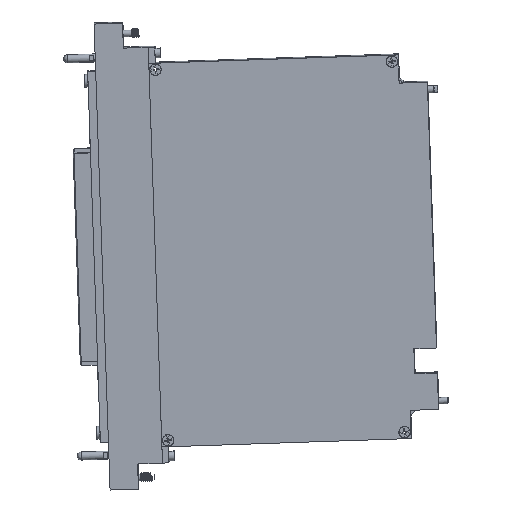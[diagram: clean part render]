
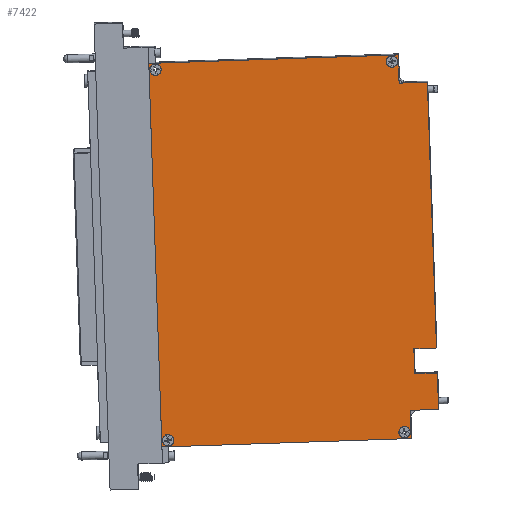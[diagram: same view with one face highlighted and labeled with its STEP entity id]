
A CAD part, front view. The second image highlights one B-rep face of the part: STEP entity #7422.
In plain terms, the highlighted planar face has unit normal (-0.008, -1, -0.021).
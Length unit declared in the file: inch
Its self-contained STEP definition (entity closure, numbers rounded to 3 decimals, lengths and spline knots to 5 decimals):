
#7048=CARTESIAN_POINT('',(0.79592,-0.4625,2.88527));
#7049=VERTEX_POINT('',#7048);
#7050=CARTESIAN_POINT('',(0.88586,-0.46332,2.88834));
#7051=DIRECTION('',(0.008,1.,0.021));
#7052=DIRECTION('',(-0.999,0.009,-0.034));
#7053=AXIS2_PLACEMENT_3D('',#7050,#7051,#7052);
#7054=CIRCLE('',#7053,0.09);
#7055=EDGE_CURVE('',#7049,#7049,#7054,.T.);
#7076=CARTESIAN_POINT('',(4.65075,-0.37448,-2.72538));
#7077=VERTEX_POINT('',#7076);
#7078=CARTESIAN_POINT('',(4.74069,-0.3753,-2.72232));
#7079=DIRECTION('',(0.008,1.,0.021));
#7080=DIRECTION('',(-0.999,0.009,-0.034));
#7081=AXIS2_PLACEMENT_3D('',#7078,#7079,#7080);
#7082=CIRCLE('',#7081,0.09);
#7083=EDGE_CURVE('',#7077,#7077,#7082,.T.);
#7105=CARTESIAN_POINT('',(4.89725,-0.39603,-1.81666));
#7106=VERTEX_POINT('',#7105);
#7113=CARTESIAN_POINT('',(5.24703,-0.39921,-1.80474));
#7114=VERTEX_POINT('',#7113);
#7115=CARTESIAN_POINT('',(5.24703,-0.39921,-1.80474));
#7116=DIRECTION('',(-0.999,0.009,-0.034));
#7117=VECTOR('',#7116,0.35);
#7118=LINE('',#7115,#7117);
#7119=EDGE_CURVE('',#7114,#7106,#7118,.T.);
#7136=CARTESIAN_POINT('',(5.26633,-0.3873,-2.36774));
#7137=VERTEX_POINT('',#7136);
#7138=CARTESIAN_POINT('',(5.26633,-0.3873,-2.36774));
#7139=DIRECTION('',(-0.034,-0.021,0.999));
#7140=VECTOR('',#7139,0.56346);
#7141=LINE('',#7138,#7140);
#7142=EDGE_CURVE('',#7137,#7114,#7141,.T.);
#7161=CARTESIAN_POINT('',(4.8291,-0.38332,-2.38265));
#7162=VERTEX_POINT('',#7161);
#7163=CARTESIAN_POINT('',(4.8291,-0.38332,-2.38265));
#7164=DIRECTION('',(0.999,-0.009,0.034));
#7165=VECTOR('',#7164,0.4375);
#7166=LINE('',#7163,#7165);
#7167=EDGE_CURVE('',#7162,#7137,#7166,.T.);
#7185=CARTESIAN_POINT('',(4.84405,-0.3741,-2.81883));
#7186=VERTEX_POINT('',#7185);
#7187=CARTESIAN_POINT('',(4.84405,-0.3741,-2.81883));
#7188=DIRECTION('',(-0.034,-0.021,0.999));
#7189=VECTOR('',#7188,0.43654);
#7190=LINE('',#7187,#7189);
#7191=EDGE_CURVE('',#7186,#7162,#7190,.T.);
#7209=CARTESIAN_POINT('',(0.98595,-0.339,-2.95034));
#7210=VERTEX_POINT('',#7209);
#7211=CARTESIAN_POINT('',(0.98595,-0.339,-2.95034));
#7212=DIRECTION('',(0.999,-0.009,0.034));
#7213=VECTOR('',#7212,3.8605);
#7214=LINE('',#7211,#7213);
#7215=EDGE_CURVE('',#7210,#7186,#7214,.T.);
#7232=CARTESIAN_POINT('',(0.7825,-0.46453,2.98485));
#7233=VERTEX_POINT('',#7232);
#7240=CARTESIAN_POINT('',(4.6406,-0.49963,3.11636));
#7241=VERTEX_POINT('',#7240);
#7242=CARTESIAN_POINT('',(4.6406,-0.49963,3.11636));
#7243=DIRECTION('',(-0.999,0.009,-0.034));
#7244=VECTOR('',#7243,3.8605);
#7245=LINE('',#7242,#7244);
#7246=EDGE_CURVE('',#7241,#7233,#7245,.T.);
#7264=CARTESIAN_POINT('',(4.65555,-0.4904,2.68018));
#7265=VERTEX_POINT('',#7264);
#7266=CARTESIAN_POINT('',(4.65555,-0.4904,2.68018));
#7267=DIRECTION('',(-0.034,-0.021,0.999));
#7268=VECTOR('',#7267,0.43654);
#7269=LINE('',#7266,#7268);
#7270=EDGE_CURVE('',#7265,#7241,#7269,.T.);
#7288=CARTESIAN_POINT('',(5.09278,-0.49438,2.69508));
#7289=VERTEX_POINT('',#7288);
#7290=CARTESIAN_POINT('',(5.09278,-0.49438,2.69508));
#7291=DIRECTION('',(-0.999,0.009,-0.034));
#7292=VECTOR('',#7291,0.4375);
#7293=LINE('',#7290,#7292);
#7294=EDGE_CURVE('',#7289,#7265,#7293,.T.);
#7310=CARTESIAN_POINT('',(5.23377,-0.40739,-1.41805));
#7311=VERTEX_POINT('',#7310);
#7320=CARTESIAN_POINT('',(5.23377,-0.40739,-1.41805));
#7321=DIRECTION('',(-0.034,-0.021,0.999));
#7322=VECTOR('',#7321,4.11646);
#7323=LINE('',#7320,#7322);
#7324=EDGE_CURVE('',#7311,#7289,#7323,.T.);
#7336=CARTESIAN_POINT('',(4.88399,-0.40421,-1.42997));
#7337=VERTEX_POINT('',#7336);
#7338=CARTESIAN_POINT('',(4.88399,-0.40421,-1.42997));
#7339=DIRECTION('',(0.999,-0.009,0.034));
#7340=VECTOR('',#7339,0.35);
#7341=LINE('',#7338,#7340);
#7342=EDGE_CURVE('',#7337,#7311,#7341,.T.);
#7360=CARTESIAN_POINT('',(4.89725,-0.39603,-1.81666));
#7361=DIRECTION('',(-0.034,-0.021,0.999));
#7362=VECTOR('',#7361,0.387);
#7363=LINE('',#7360,#7362);
#7364=EDGE_CURVE('',#7106,#7337,#7363,.T.);
#7370=CARTESIAN_POINT('',(3.01325,-0.42113,0.08983));
#7371=DIRECTION('',(0.008,1.,0.021));
#7372=DIRECTION('',(-0.999,0.009,-0.034));
#7373=AXIS2_PLACEMENT_3D('',#7370,#7371,#7372);
#7374=PLANE('',#7373);
#7375=ORIENTED_EDGE('',*,*,#7342,.T.);
#7376=ORIENTED_EDGE('',*,*,#7324,.T.);
#7377=ORIENTED_EDGE('',*,*,#7294,.T.);
#7378=ORIENTED_EDGE('',*,*,#7270,.T.);
#7379=ORIENTED_EDGE('',*,*,#7246,.T.);
#7380=CARTESIAN_POINT('',(0.7825,-0.46453,2.98485));
#7381=DIRECTION('',(0.034,0.021,-0.999));
#7382=VECTOR('',#7381,5.94);
#7383=LINE('',#7380,#7382);
#7384=EDGE_CURVE('',#7233,#7210,#7383,.T.);
#7385=ORIENTED_EDGE('',*,*,#7384,.T.);
#7386=ORIENTED_EDGE('',*,*,#7215,.T.);
#7387=ORIENTED_EDGE('',*,*,#7191,.T.);
#7388=ORIENTED_EDGE('',*,*,#7167,.T.);
#7389=ORIENTED_EDGE('',*,*,#7142,.T.);
#7390=ORIENTED_EDGE('',*,*,#7119,.T.);
#7391=ORIENTED_EDGE('',*,*,#7364,.T.);
#7392=EDGE_LOOP('',(#7375,#7376,#7377,#7378,#7379,#7385,#7386,#7387,#7388,#7389,#7390,#7391));
#7393=FACE_OUTER_BOUND('',#7392,.T.);
#7394=ORIENTED_EDGE('',*,*,#7083,.T.);
#7395=EDGE_LOOP('',(#7394));
#7396=FACE_BOUND('',#7395,.T.);
#7397=CARTESIAN_POINT('',(0.99252,-0.3412,-2.85008));
#7398=VERTEX_POINT('',#7397);
#7399=CARTESIAN_POINT('',(1.08247,-0.34202,-2.84701));
#7400=DIRECTION('',(0.008,1.,0.021));
#7401=DIRECTION('',(-0.999,0.009,-0.034));
#7402=AXIS2_PLACEMENT_3D('',#7399,#7400,#7401);
#7403=CIRCLE('',#7402,0.09);
#7404=EDGE_CURVE('',#7398,#7398,#7403,.T.);
#7405=ORIENTED_EDGE('',*,*,#7404,.T.);
#7406=EDGE_LOOP('',(#7405));
#7407=FACE_BOUND('',#7406,.T.);
#7408=ORIENTED_EDGE('',*,*,#7055,.T.);
#7409=EDGE_LOOP('',(#7408));
#7410=FACE_BOUND('',#7409,.T.);
#7411=CARTESIAN_POINT('',(4.45414,-0.49579,3.00997));
#7412=VERTEX_POINT('',#7411);
#7413=CARTESIAN_POINT('',(4.54409,-0.49661,3.01303));
#7414=DIRECTION('',(0.008,1.,0.021));
#7415=DIRECTION('',(-0.999,0.009,-0.034));
#7416=AXIS2_PLACEMENT_3D('',#7413,#7414,#7415);
#7417=CIRCLE('',#7416,0.09);
#7418=EDGE_CURVE('',#7412,#7412,#7417,.T.);
#7419=ORIENTED_EDGE('',*,*,#7418,.T.);
#7420=EDGE_LOOP('',(#7419));
#7421=FACE_BOUND('',#7420,.T.);
#7422=ADVANCED_FACE('',(#7393,#7396,#7407,#7410,#7421),#7374,.F.);
